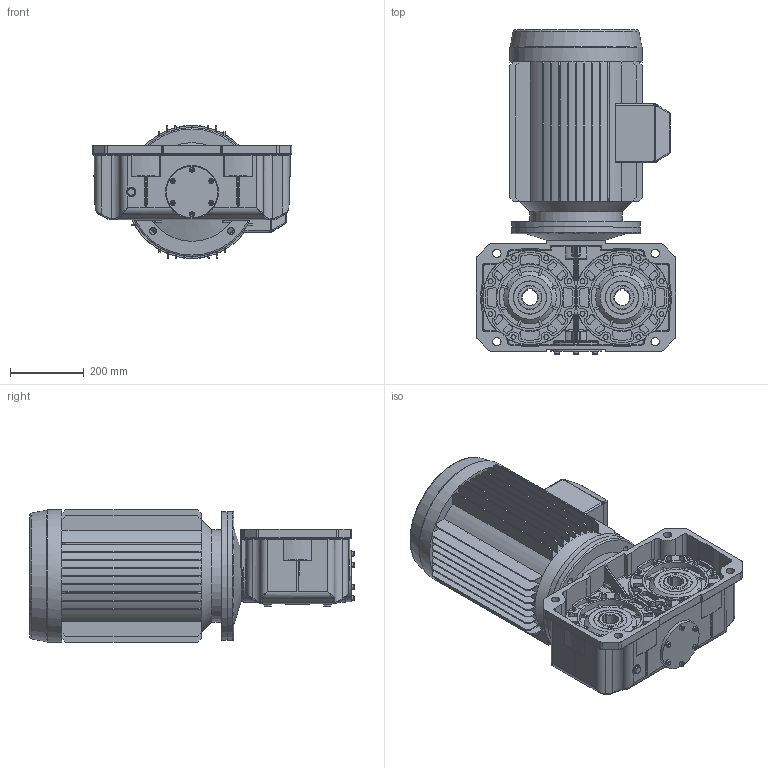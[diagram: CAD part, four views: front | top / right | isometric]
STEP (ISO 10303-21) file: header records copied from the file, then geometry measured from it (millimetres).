
FILE_DESCRIPTION((''),'2;1');
FILE_NAME('Y:\Archivi Inventor\Prog_07\int_250\Figurini\mrv250 2u x sito\MRV2U 250_160_b5.stp','2013-02-15T10:19:46',('tech3'),(''),'Autodesk Inventor 2013','Autodesk Inventor 2013','');
FILE_SCHEMA(('AUTOMOTIVE_DESIGN { 1 0 10303 214 1 1 1 1 }'));
Length unit declared in the file: millimetre
Products named in the file (13): Fig_MRV2U 250; Figurino_Carcassa 250_2U; Figurino_Corona 250_2U; 0725002; 0725009; UNI 5739 M8 x 25; UNI 5931 M 8 x  30; Guarnizione 3_8 GAS; Tappo3_8 GAS; UNI ISO 6194-1 (4) Tipo4 65 x  90 x  10; 0107006; DIN EN ISO 4762 M8 x 20; motori B5 160L
Assembly tree (48 placements, depth 2):
  Fig_MRV2U 250
    Figurino_Carcassa 250_2U
    Figurino_Corona 250_2U  x2
    0725002  x2
    0725009
    UNI 5739 M8 x 25  x16
    UNI 5931 M 8 x  30  x6
    Guarnizione 3_8 GAS  x4
    Tappo3_8 GAS  x4
    UNI ISO 6194-1 (4) Tipo4 65 x  90 x  10  x4
    0107006
    DIN EN ISO 4762 M8 x 20  x6
    motori B5 160L
Bounding box: 542 x 879.7 x 360.42 mm (x, y, z)
Volume: 65409523.3 mm3; surface area: 3581499.1 mm2
Topology: 48 solids, 50 shells, 2366 faces, 5689 edges, 3490 vertices
Faces by surface type: plane 929, cylinder 827, bspline 217, cone 195, torus 154, sphere 44
Full cylindrical faces by diameter (mm): 6.647 x28, 8 x28, 8.5 x28, 11.63 x16, 13 x12, 13.046 x4, 14.95 x4, 16.3 x4, 18 x4, 19 x4, 20 x6, 22 x8, 23 x4, 25 x4, 42 x1, 65 x2, 71 x4, 85 x4, 90 x10, 100 x4, 140 x2, 144 x1, 168 x2, 180 x2, 216 x4, 250 x3, 350 x2, 360 x1
Entity records: 55959 total; most frequent: CARTESIAN_POINT 17870, DIRECTION 7860, ORIENTED_EDGE 7358, EDGE_CURVE 3679, AXIS2_PLACEMENT_3D 3114, VERTEX_POINT 2334, EDGE_LOOP 1907, VECTOR 1632
